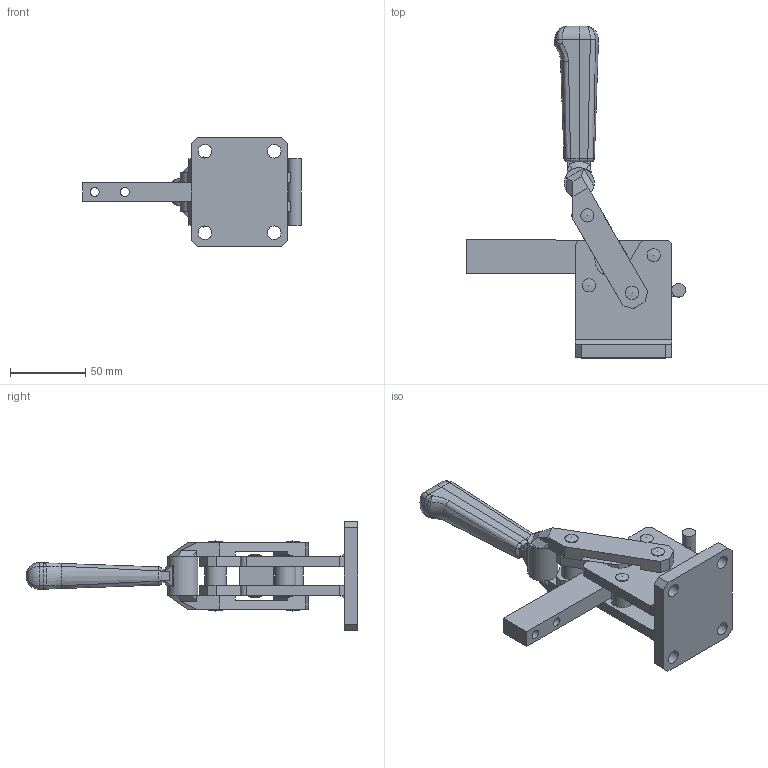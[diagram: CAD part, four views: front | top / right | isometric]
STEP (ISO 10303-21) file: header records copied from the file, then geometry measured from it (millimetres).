
FILE_DESCRIPTION(/* description */ (''),/* implementation_level */ '2;1');
FILE_NAME(/* name */ '/Users/eric/Desktop/Abco 2213 Closed:Fermée.stp',/* time_stamp */ '2014-07-29T19:01:48+10:00',/* author */ (''),/* organization */ (''),/* preprocessor_version */ 'ST-DEVELOPER v14.6',/* originating_system */ '',/* authorisation */ '');
FILE_SCHEMA (('AUTOMOTIVE_DESIGN { 1 2 10303 214 1 1 1 1 }'));
Length unit declared in the file: centimetre
Products named in the file (1): 1234-K789
Bounding box: 145.02 x 219.93 x 72 mm (x, y, z)
Volume: 210007.9 mm3; surface area: 92370.2 mm2
Topology: 34 solids, 34 shells, 359 faces, 838 edges, 530 vertices
Faces by surface type: plane 211, cylinder 88, bspline 24, cone 20, sphere 10, torus 6
Full cylindrical faces by diameter (mm): 6 x2, 8 x24, 9 x5, 10 x18, 14 x3, 20 x1
Entity records: 10323 total; most frequent: CARTESIAN_POINT 2525, DIRECTION 1566, ORIENTED_EDGE 1486, EDGE_CURVE 743, AXIS2_PLACEMENT_3D 547, VERTEX_POINT 508, LINE 472, VECTOR 472
